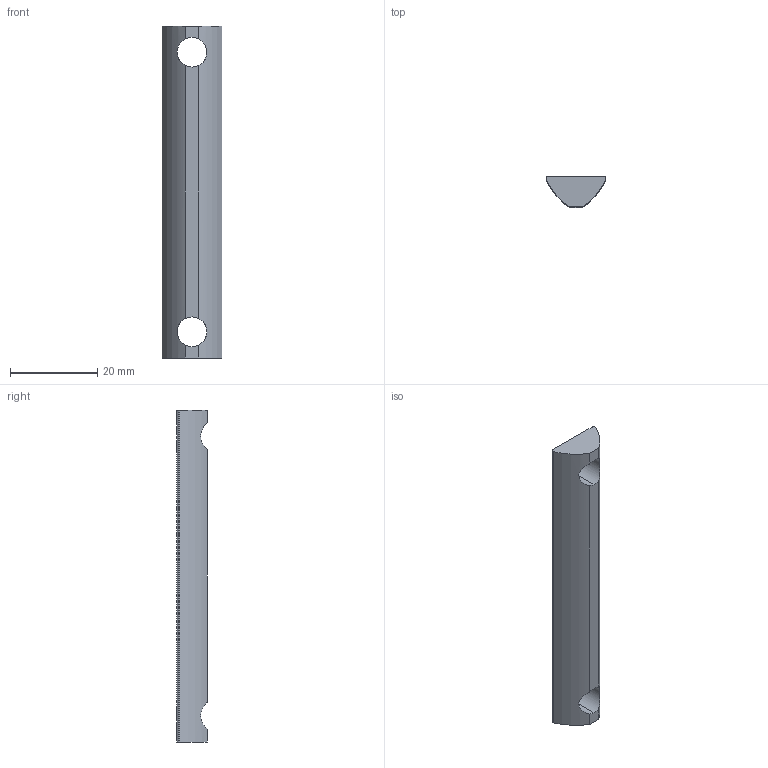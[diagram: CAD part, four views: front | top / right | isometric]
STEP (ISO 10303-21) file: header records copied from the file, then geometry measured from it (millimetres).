
FILE_DESCRIPTION(('STEP AP214'),'1');
FILE_NAME('fath_096008d76.stp','2017-10-09T07:29:32',('TraceParts'),('TraceParts S.A.'),'Spatial InterOp 3D',' ',' ');
FILE_SCHEMA(('automotive_design'));
Length unit declared in the file: millimetre
Products named in the file (1): fath_096008d76
Bounding box: 13.7 x 7 x 76 mm (x, y, z)
Volume: 4692.4 mm3; surface area: 2864.8 mm2
Topology: 1 solids, 1 shells, 16 faces, 48 edges, 32 vertices
Faces by surface type: cylinder 10, plane 6
Entity records: 815 total; most frequent: CARTESIAN_POINT 203, DIRECTION 102, ORIENTED_EDGE 96, EDGE_CURVE 48, AXIS2_PLACEMENT_3D 41, VERTEX_POINT 32, CIRCLE 24, LINE 20
